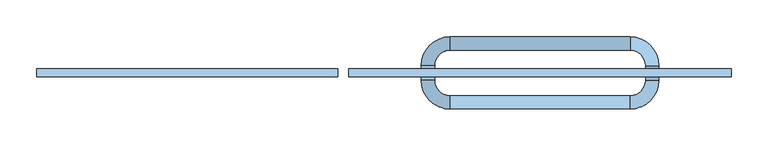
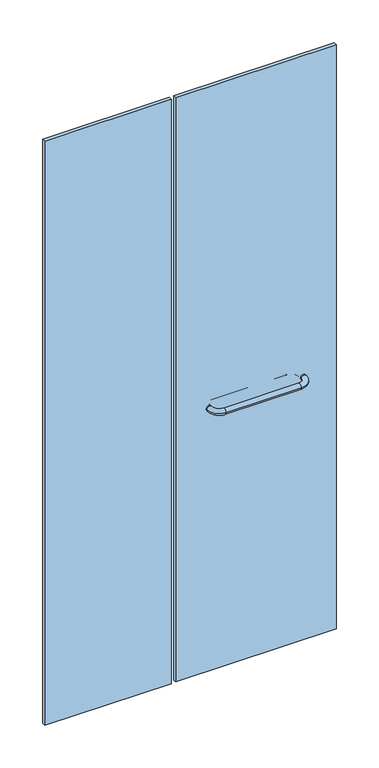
"""IFC4 building model written with IfcOpenShell, lengths in millimetres: window geometry, Baño 1 Puerta lateral - toallero simple : CA06-a-cancel baño-0.96."""

from ifc_helpers import new_model, si_unit, point, frame, origin, origin_with_axes, place, context, project, spatial, polyline, circle_curve, ellipse_curve, trimmed, outline, extrude, source, transform, mapped, element, save
from ifc_brep_helpers import cylinder_surface, revolved_surface, advanced_brep


def window_0328c900(model_context):
    return source(origin(), model_context, "Body", "SolidModel", [
        extrude(outline(polyline([(-55.25, 5.5), (464.75, 5.5), (464.75, -5.5), (-55.25, -5.5), (-55.25, 5.5)])), origin_with_axes(), (0.0, 0.0, 1.0), 2000.0),
        extrude(outline(polyline([(-479.75, 5.5), (-70.25, 5.5), (-70.25, -5.5), (-479.75, -5.5), (-479.75, 5.5)])), origin_with_axes(), (0.0, 0.0, 1.0), 2000.0),
        advanced_brep(
        [(43.25, -10.0, 900.0), (61.25, -10.0, 900.0), (82.25, -31.0, 900.0), (82.25, -49.0, 900.0), (43.25, 10.0, 900.0), (61.25, 10.0, 900.0), (82.25, 49.0, 900.0), (82.25, 31.0, 900.0), (327.25, 49.0, 900.0), (327.25, 31.0, 900.0), (366.25, 10.0, 900.0), (348.25, 10.0, 900.0), (366.25, -10.0, 900.0), (348.25, -10.0, 900.0), (327.25, -49.0, 900.0), (327.25, -31.0, 900.0)],
        [
            (0, 1, circle_curve(frame((52.25, -10.0, 900.0), z_axis=(0.0, -1.0, 0.0), x_axis=(1.0, 0.0, 0.0)), 9.0)),
            (1, 2, circle_curve(frame((82.25, -10.0, 900.0), z_axis=(0.0, 0.0, 1.0), x_axis=(0.0, -1.0, 0.0)), 21.0)),
            (2, 3, circle_curve(frame((82.25, -40.0, 900.0), z_axis=(-1.0, 0.0, 0.0), x_axis=(0.0, 1.0, 0.0)), 9.0)),
            (3, 0, circle_curve(frame((82.25, -10.0, 900.0), z_axis=(0.0, 0.0, -1.0), x_axis=(0.0, -1.0, 0.0)), 39.0)),
            (1, 0, circle_curve(frame((52.25, -10.0, 900.0), z_axis=(0.0, -1.0, 0.0), x_axis=(1.0, 0.0, 0.0)), 9.0)),
            (3, 2, circle_curve(frame((82.25, -40.0, 900.0), z_axis=(-1.0, 0.0, 0.0), x_axis=(0.0, 1.0, 0.0)), 9.0)),
            (0, 4),
            (4, 5, circle_curve(frame((52.25, 10.0, 900.0), z_axis=(0.0, -1.0, 0.0), x_axis=(1.0, 0.0, 0.0)), 9.0)),
            (5, 1),
            (5, 4, circle_curve(frame((52.25, 10.0, 900.0), z_axis=(0.0, -1.0, 0.0), x_axis=(1.0, 0.0, 0.0)), 9.0)),
            (6, 7, circle_curve(frame((82.25, 40.0, 900.0), z_axis=(-1.0, 0.0, 0.0), x_axis=(0.0, -1.0, 0.0)), 9.0)),
            (7, 5, circle_curve(frame((82.25, 10.0, 900.0), z_axis=(0.0, 0.0, 1.0), x_axis=(-1.0, 0.0, 0.0)), 21.0)),
            (4, 6, circle_curve(frame((82.25, 10.0, 900.0), z_axis=(0.0, 0.0, -1.0), x_axis=(-1.0, 0.0, 0.0)), 39.0)),
            (7, 6, circle_curve(frame((82.25, 40.0, 900.0), z_axis=(-1.0, 0.0, 0.0), x_axis=(0.0, -1.0, 0.0)), 9.0)),
            (6, 8),
            (8, 9, circle_curve(frame((327.25, 40.0, 900.0), z_axis=(-1.0, 0.0, 0.0), x_axis=(0.0, -1.0, 0.0)), 9.0)),
            (9, 7),
            (9, 8, circle_curve(frame((327.25, 40.0, 900.0), z_axis=(-1.0, 0.0, 0.0), x_axis=(0.0, -1.0, 0.0)), 9.0)),
            (10, 11, circle_curve(frame((357.25, 10.0, 900.0), z_axis=(0.0, 1.0, 0.0), x_axis=(-1.0, 0.0, 0.0)), 9.0)),
            (11, 9, circle_curve(frame((327.25, 10.0, 900.0), z_axis=(0.0, 0.0, 1.0), x_axis=(0.0, 1.0, 0.0)), 21.0)),
            (8, 10, circle_curve(frame((327.25, 10.0, 900.0), z_axis=(0.0, 0.0, -1.0), x_axis=(0.0, 1.0, 0.0)), 39.0)),
            (11, 10, circle_curve(frame((357.25, 10.0, 900.0), z_axis=(0.0, 1.0, 0.0), x_axis=(-1.0, 0.0, 0.0)), 9.0)),
            (10, 12),
            (12, 13, circle_curve(frame((357.25, -10.0, 900.0), z_axis=(0.0, 1.0, 0.0), x_axis=(-1.0, 0.0, 0.0)), 9.0)),
            (13, 11),
            (13, 12, circle_curve(frame((357.25, -10.0, 900.0), z_axis=(0.0, 1.0, 0.0), x_axis=(-1.0, 0.0, 0.0)), 9.0)),
            (14, 15, circle_curve(frame((327.25, -40.0, 900.0), z_axis=(1.0, 0.0, 0.0), x_axis=(0.0, 1.0, 0.0)), 9.0)),
            (15, 13, circle_curve(frame((327.25, -10.0, 900.0), z_axis=(0.0, 0.0, 1.0), x_axis=(1.0, 0.0, 0.0)), 21.0)),
            (12, 14, circle_curve(frame((327.25, -10.0, 900.0), z_axis=(0.0, 0.0, -1.0), x_axis=(1.0, 0.0, 0.0)), 39.0)),
            (15, 14, circle_curve(frame((327.25, -40.0, 900.0), z_axis=(1.0, 0.0, 0.0), x_axis=(0.0, 1.0, 0.0)), 9.0)),
            (14, 3),
            (2, 15),
        ],
        [
            revolved_surface(trimmed(ellipse_curve(frame((82.25, -40.0, 900.0), z_axis=(-1.0, 0.0, 0.0), x_axis=(0.0, 1.0, 0.0)), 9.0, 9.0), [point((82.25, -31.0, 900.0))], [point((82.25, -49.0, 900.0))], True, "CARTESIAN"), (82.25, -10.0, 0.0), (0.0, 0.0, 1.0)),
            revolved_surface(trimmed(ellipse_curve(frame((82.25, -40.0, 900.0), z_axis=(-1.0, 0.0, 0.0), x_axis=(0.0, 1.0, 0.0)), 9.0, 9.0), [point((82.25, -49.0, 900.0))], [point((82.25, -31.0, 900.0))], True, "CARTESIAN"), (82.25, -10.0, 0.0), (0.0, 0.0, 1.0)),
            cylinder_surface(frame((52.25, -10.0, 900.0), z_axis=(0.0, -1.0, 0.0), x_axis=(1.0, 0.0, 0.0)), 9.0),
            revolved_surface(trimmed(ellipse_curve(frame((52.25, 10.0, 900.0), z_axis=(0.0, 1.0, 0.0), x_axis=(1.0, 0.0, 0.0)), 9.0, 9.0), [point((61.25, 10.0, 900.0))], [point((43.25, 10.0, 900.0))], True, "CARTESIAN"), (82.25, 10.0, 0.0), (0.0, 0.0, 1.0)),
            revolved_surface(trimmed(ellipse_curve(frame((52.25, 10.0, 900.0), z_axis=(0.0, 1.0, 0.0), x_axis=(1.0, 0.0, 0.0)), 9.0, 9.0), [point((43.25, 10.0, 900.0))], [point((61.25, 10.0, 900.0))], True, "CARTESIAN"), (82.25, 10.0, 0.0), (0.0, 0.0, 1.0)),
            cylinder_surface(frame((82.25, 40.0, 900.0), z_axis=(-1.0, 0.0, 0.0), x_axis=(0.0, -1.0, 0.0)), 9.0),
            revolved_surface(trimmed(ellipse_curve(frame((327.25, 40.0, 900.0), z_axis=(1.0, 0.0, 0.0), x_axis=(0.0, -1.0, 0.0)), 9.0, 9.0), [point((327.25, 31.0, 900.0))], [point((327.25, 49.0, 900.0))], True, "CARTESIAN"), (327.25, 10.0, 0.0), (0.0, 0.0, 1.0)),
            revolved_surface(trimmed(ellipse_curve(frame((327.25, 40.0, 900.0), z_axis=(1.0, 0.0, 0.0), x_axis=(0.0, -1.0, 0.0)), 9.0, 9.0), [point((327.25, 49.0, 900.0))], [point((327.25, 31.0, 900.0))], True, "CARTESIAN"), (327.25, 10.0, 0.0), (0.0, 0.0, 1.0)),
            cylinder_surface(frame((357.25, 10.0, 900.0), z_axis=(0.0, 1.0, 0.0), x_axis=(-1.0, 0.0, 0.0)), 9.0),
            revolved_surface(trimmed(ellipse_curve(frame((357.25, -10.0, 900.0), z_axis=(0.0, -1.0, 0.0), x_axis=(-1.0, 0.0, 0.0)), 9.0, 9.0), [point((348.25, -10.0, 900.0))], [point((366.25, -10.0, 900.0))], True, "CARTESIAN"), (327.25, -10.0, 0.0), (0.0, 0.0, 1.0)),
            revolved_surface(trimmed(ellipse_curve(frame((357.25, -10.0, 900.0), z_axis=(0.0, -1.0, 0.0), x_axis=(-1.0, 0.0, 0.0)), 9.0, 9.0), [point((366.25, -10.0, 900.0))], [point((348.25, -10.0, 900.0))], True, "CARTESIAN"), (327.25, -10.0, 0.0), (0.0, 0.0, 1.0)),
            cylinder_surface(frame((327.25, -40.0, 900.0), z_axis=(1.0, 0.0, 0.0), x_axis=(0.0, 1.0, 0.0)), 9.0),
        ],
        [
            (0, [[1, 2, 3, 4]]),
            (1, [[5, -4, 6, -2]]),
            (2, [[7, 8, 9, -1]]),
            (2, [[-9, 10, -7, -5]]),
            (3, [[11, 12, -8, 13]]),
            (4, [[14, -13, -10, -12]]),
            (5, [[15, 16, 17, -11]]),
            (5, [[-17, 18, -15, -14]]),
            (6, [[19, 20, -16, 21]]),
            (7, [[22, -21, -18, -20]]),
            (8, [[23, 24, 25, -19]]),
            (8, [[-25, 26, -23, -22]]),
            (9, [[27, 28, -24, 29]]),
            (10, [[30, -29, -26, -28]]),
            (11, [[31, -3, 32, -27]]),
            (11, [[-32, -6, -31, -30]]),
        ],
    ),
    ])


if __name__ == "__main__":
    model = new_model("IFC4")
    model_context = context("Model", 3, world=origin())
    ifc_project = project(units=[si_unit("LENGTHUNIT", "METRE", prefix="MILLI")], contexts=[model_context])
    site = spatial("IfcSite", under=ifc_project)
    building = spatial("IfcBuilding", under=site)
    placement = place(None, origin())
    window_shape = window_0328c900(model_context)
    element("IfcWindow", 1, ObjectType="Baño 1 Puerta lateral - toallero simple : CA06-a-cancel baño-0.96", at=placement, inside=building, context=model_context, shape_type="MappedRepresentation", body=[
        mapped(window_shape, transform((0.0, 0.0, 0.0), x_axis=(1.0, 0.0, 0.0), y_axis=(0.0, 1.0, 0.0), z_axis=(0.0, 0.0, 1.0))),
    ])
    save(model, "model.ifc")
